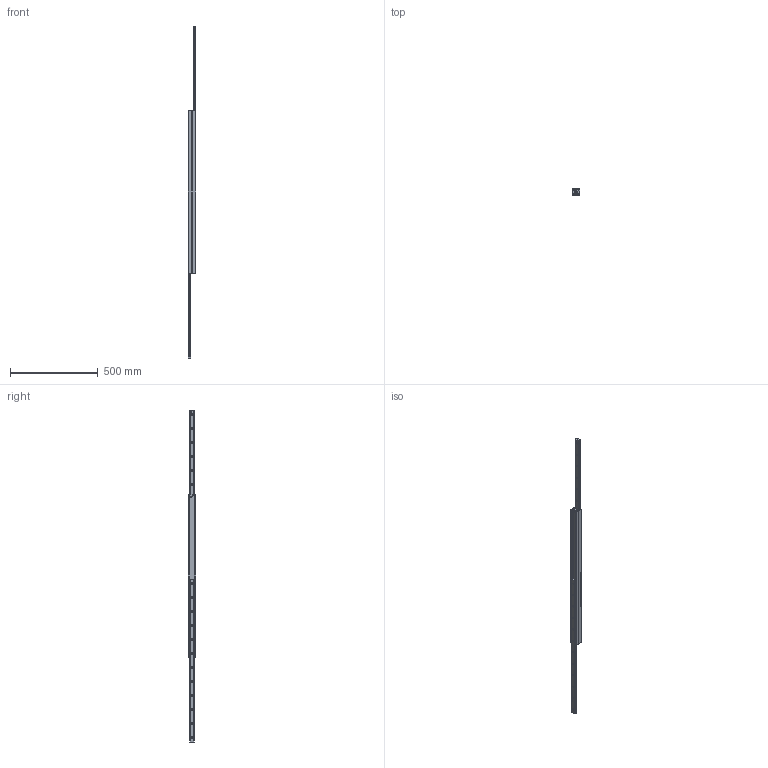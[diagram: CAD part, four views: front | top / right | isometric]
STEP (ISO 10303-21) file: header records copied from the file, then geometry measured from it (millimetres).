
FILE_DESCRIPTION( ( 'STEP AP214' ), '1' );
FILE_NAME( 'p:/temp/worker_87/temp/exporttempdir_3488_731_uFXZc/format_0/DEF43-930966.stp', '2020-03-20T19:56:44', ( 'License CC BY-ND 4.0' ), ( 'CADENAS' ), ' ', 'PARTsolutions', ' ' );
FILE_SCHEMA( ( 'AUTOMOTIVE_DESIGN { 1 0 10303 214 1 1 1 1 }' ) );
Length unit declared in the file: millimetre
Products named in the file (4): DEF43-930966; _432193096612-gf; _43219309661-ei; _432193096611-gf
Assembly tree (4 placements, depth 2):
  DEF43-930966
    _432193096612-gf
    _43219309661-ei  x2
    _432193096611-gf
Bounding box: 44 x 43 x 1896 mm (x, y, z)
Volume: 1149689.1 mm3; surface area: 439149 mm2
Topology: 4 solids, 4 shells, 224 faces, 560 edges, 356 vertices
Faces by surface type: plane 102, cylinder 70, cone 52
Full cylindrical faces by diameter (mm): 4.134 x2, 6.647 x24, 7 x2
Entity records: 6396 total; most frequent: DIRECTION 884, CARTESIAN_POINT 813, ORIENTED_EDGE 718, EDGE_CURVE 359, AXIS2_PLACEMENT_3D 344, EDGE_LOOP 308, VERTEX_POINT 273, FACE_OUTER_BOUND 202
